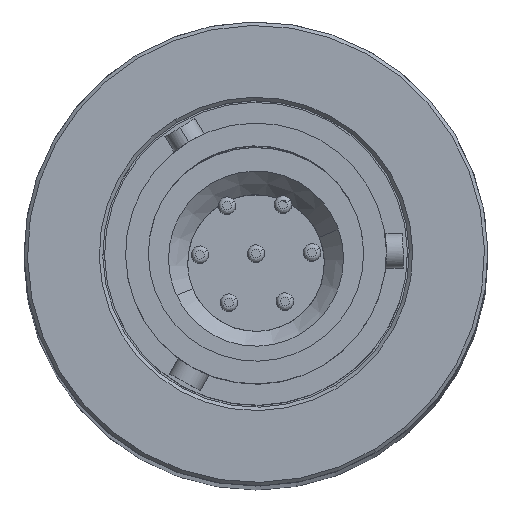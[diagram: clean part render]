
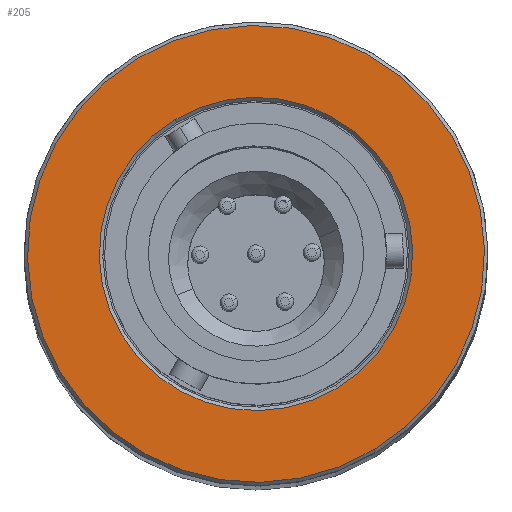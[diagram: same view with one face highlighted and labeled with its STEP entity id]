
A CAD part, top view. The second image highlights one B-rep face of the part: STEP entity #205.
In plain terms, the highlighted planar face has unit normal (0, 0, 1).
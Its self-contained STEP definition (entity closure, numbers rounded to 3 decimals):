
#39 = ORIENTED_EDGE ( 'NONE', *, *, #1385, .T. ) ;
#205 = ADVANCED_FACE ( 'NONE', ( #1063, #2704 ), #2676, .T. ) ;
#239 = VERTEX_POINT ( 'NONE', #582 ) ;
#242 = DIRECTION ( 'NONE',  ( 0., 0., -1. ) ) ;
#317 = AXIS2_PLACEMENT_3D ( 'NONE', #1684, #1666, #2721 ) ;
#384 = CARTESIAN_POINT ( 'NONE',  ( 6.75, -11.169, 303.317 ) ) ;
#409 = DIRECTION ( 'NONE',  ( -0.517, 0.856, 0. ) ) ;
#508 = DIRECTION ( 'NONE',  ( -0.517, 0.856, 0. ) ) ;
#512 = CARTESIAN_POINT ( 'NONE',  ( 0., 0., 303.317 ) ) ;
#582 = CARTESIAN_POINT ( 'NONE',  ( -4.63, 7.66, 303.317 ) ) ;
#818 = CIRCLE ( 'NONE', #2364, 8.95 ) ;
#852 = CARTESIAN_POINT ( 'NONE',  ( 0., 0., 303.317 ) ) ;
#860 = ORIENTED_EDGE ( 'NONE', *, *, #913, .T. ) ;
#913 = EDGE_CURVE ( 'NONE', #239, #1156, #2386, .T. ) ;
#928 = CARTESIAN_POINT ( 'NONE',  ( 0., 0., 303.317 ) ) ;
#1063 = FACE_OUTER_BOUND ( 'NONE', #2270, .T. ) ;
#1156 = VERTEX_POINT ( 'NONE', #2713 ) ;
#1367 = CIRCLE ( 'NONE', #317, 13.05 ) ;
#1385 = EDGE_CURVE ( 'NONE', #3241, #1846, #2179, .T. ) ;
#1388 = DIRECTION ( 'NONE',  ( -0.517, 0.856, 0. ) ) ;
#1651 = EDGE_CURVE ( 'NONE', #1846, #3241, #1367, .T. ) ;
#1666 = DIRECTION ( 'NONE',  ( 0., 0., 1. ) ) ;
#1684 = CARTESIAN_POINT ( 'NONE',  ( 0., 0., 303.317 ) ) ;
#1846 = VERTEX_POINT ( 'NONE', #2381 ) ;
#2178 = CARTESIAN_POINT ( 'NONE',  ( -10.698, -6.466, 303.317 ) ) ;
#2179 = CIRCLE ( 'NONE', #3050, 13.05 ) ;
#2270 = EDGE_LOOP ( 'NONE', ( #39, #2278 ) ) ;
#2278 = ORIENTED_EDGE ( 'NONE', *, *, #1651, .T. ) ;
#2349 = DIRECTION ( 'NONE',  ( -0.517, 0.856, 0. ) ) ;
#2364 = AXIS2_PLACEMENT_3D ( 'NONE', #852, #3417, #508 ) ;
#2381 = CARTESIAN_POINT ( 'NONE',  ( -6.75, 11.169, 303.317 ) ) ;
#2386 = CIRCLE ( 'NONE', #2661, 8.95 ) ;
#2416 = DIRECTION ( 'NONE',  ( 0., 0., 1. ) ) ;
#2488 = EDGE_CURVE ( 'NONE', #1156, #239, #818, .T. ) ;
#2661 = AXIS2_PLACEMENT_3D ( 'NONE', #512, #242, #2349 ) ;
#2676 = PLANE ( 'NONE',  #2943 ) ;
#2704 = FACE_BOUND ( 'NONE', #3145, .T. ) ;
#2713 = CARTESIAN_POINT ( 'NONE',  ( 4.63, -7.66, 303.317 ) ) ;
#2721 = DIRECTION ( 'NONE',  ( -0.517, 0.856, 0. ) ) ;
#2861 = ORIENTED_EDGE ( 'NONE', *, *, #2488, .T. ) ;
#2943 = AXIS2_PLACEMENT_3D ( 'NONE', #2178, #2416, #1388 ) ;
#3050 = AXIS2_PLACEMENT_3D ( 'NONE', #928, #3057, #409 ) ;
#3057 = DIRECTION ( 'NONE',  ( 0., 0., 1. ) ) ;
#3145 = EDGE_LOOP ( 'NONE', ( #860, #2861 ) ) ;
#3241 = VERTEX_POINT ( 'NONE', #384 ) ;
#3417 = DIRECTION ( 'NONE',  ( 0., 0., -1. ) ) ;
